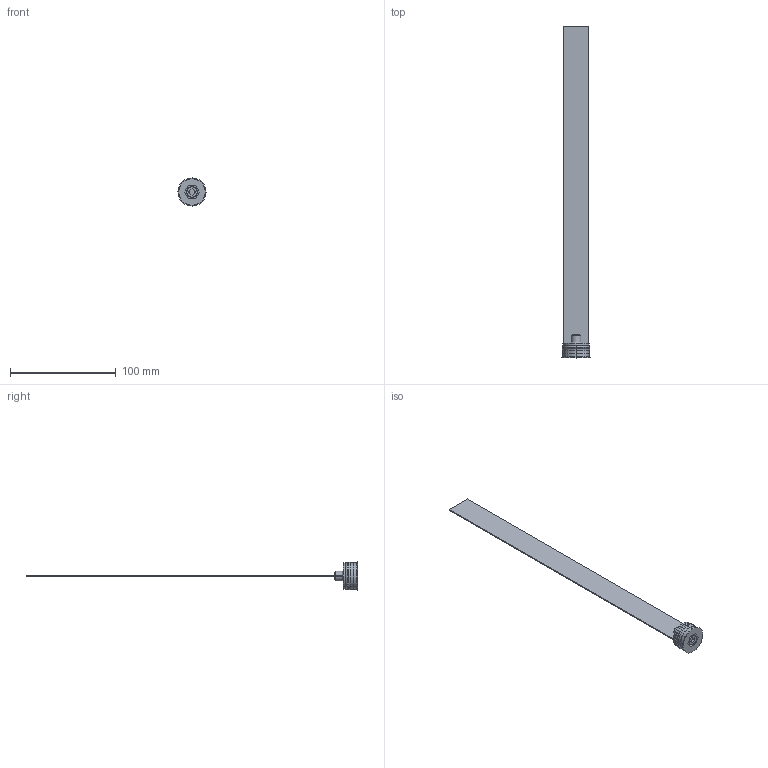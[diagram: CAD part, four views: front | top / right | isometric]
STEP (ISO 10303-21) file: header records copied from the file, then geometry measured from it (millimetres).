
FILE_DESCRIPTION (( 'STEP AP203' ), '1' );
FILE_NAME ('RL-25Fx300-24,5.STEP', '2015-12-04T07:28:41', ( 'Balzi' ), ( '' ), 'SwSTEP 2.0', 'SolidWorks 2015', '' );
FILE_SCHEMA (( 'CONFIG_CONTROL_DESIGN' ));
Length unit declared in the file: millimetre
Products named in the file (1): RL-25Fx300-24,5
Bounding box: 26.5 x 314 x 26.5 mm (x, y, z)
Volume: 14304.3 mm3; surface area: 18259.7 mm2
Topology: 1 solids, 1 shells, 75 faces, 177 edges, 109 vertices
Faces by surface type: plane 31, cone 19, cylinder 17, torus 8
Entity records: 2245 total; most frequent: CARTESIAN_POINT 412, DIRECTION 386, ORIENTED_EDGE 354, EDGE_CURVE 177, AXIS2_PLACEMENT_3D 147, VERTEX_POINT 109, VECTOR 92, LINE 92
